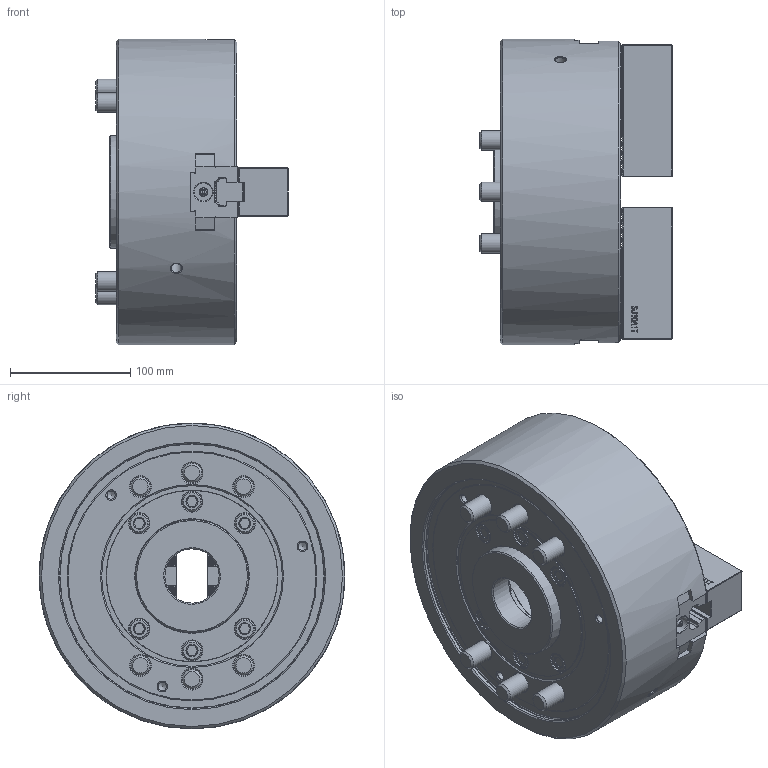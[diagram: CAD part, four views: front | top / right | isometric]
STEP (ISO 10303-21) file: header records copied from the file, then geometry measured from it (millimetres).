
FILE_DESCRIPTION (( 'STEP AP214' ), '1' );
FILE_NAME ('DT1_BT210_OUTSIDE_VIEW_OC.STEP', '2024-05-09T01:03:02', ( '' ), ( '' ), 'SwSTEP 2.0', 'SolidWorks 2022', '' );
FILE_SCHEMA (( 'AUTOMOTIVE_DESIGN' ));
Length unit declared in the file: millimetre
Products named in the file (9): DT1_B210_DRAWNUT^DT1-BT210_ﾃﾞﾌｫﾙﾄ; DT1_B210_TNUT^DT1-BT210_ﾃﾞﾌｫﾙﾄ; DT1_B210_BASE^DT1-BT210_ﾃﾞﾌｫﾙﾄ; DT1_B210_M12x30^DT1-BT210_ﾃﾞﾌｫﾙﾄ; DT1_B210_M16x100^DT1-BT210_ﾃﾞﾌｫﾙﾄ; DT1_B210_SOFTJAW^DT1-BT210_ﾃﾞﾌｫﾙﾄ; DT1_B210_M6x10^DT1-BT210_ﾃﾞﾌｫﾙﾄ; DT1_B210_COVER^DT1-BT210_ﾃﾞﾌｫﾙﾄ; DT1_BT210_OUTSIDE_VIEW_OC
Assembly tree (21 placements, depth 2):
  DT1_BT210_OUTSIDE_VIEW_OC
    DT1_B210_SOFTJAW^DT1-BT210_ﾃﾞﾌｫﾙﾄ  x2
    DT1_B210_TNUT^DT1-BT210_ﾃﾞﾌｫﾙﾄ  x2
    DT1_B210_DRAWNUT^DT1-BT210_ﾃﾞﾌｫﾙﾄ
    DT1_B210_COVER^DT1-BT210_ﾃﾞﾌｫﾙﾄ
    DT1_B210_BASE^DT1-BT210_ﾃﾞﾌｫﾙﾄ
    DT1_B210_M6x10^DT1-BT210_ﾃﾞﾌｫﾙﾄ  x4
    DT1_B210_M12x30^DT1-BT210_ﾃﾞﾌｫﾙﾄ  x4
    DT1_B210_M16x100^DT1-BT210_ﾃﾞﾌｫﾙﾄ  x6
Bounding box: 160 x 254 x 254 mm (x, y, z)
Volume: 4794501.4 mm3; surface area: 456441.8 mm2
Topology: 21 solids, 25 shells, 3589 faces, 10078 edges, 6645 vertices
Faces by surface type: plane 2489, cylinder 676, bspline 209, cone 194, torus 19, sphere 2
Full cylindrical faces by diameter (mm): 2 x2, 5 x4, 6 x4, 6.6 x4, 6.8 x3, 8.5 x2, 10.2 x4, 10.5 x4, 11 x4, 12 x4, 13 x4, 15 x2, 16 x6, 17 x12, 18.27 x4, 19 x4, 24.33 x6, 26 x6, 45 x1, 75 x2, 79 x2, 80 x2, 86 x1, 94 x2, 142.7 x1, 150 x1, 220 x1, 221 x1, 254 x1
Entity records: 90664 total; most frequent: CARTESIAN_POINT 25786, ORIENTED_EDGE 14572, DIRECTION 11398, EDGE_CURVE 7286, LINE 5466, VECTOR 5466, VERTEX_POINT 4896, AXIS2_PLACEMENT_3D 2966
